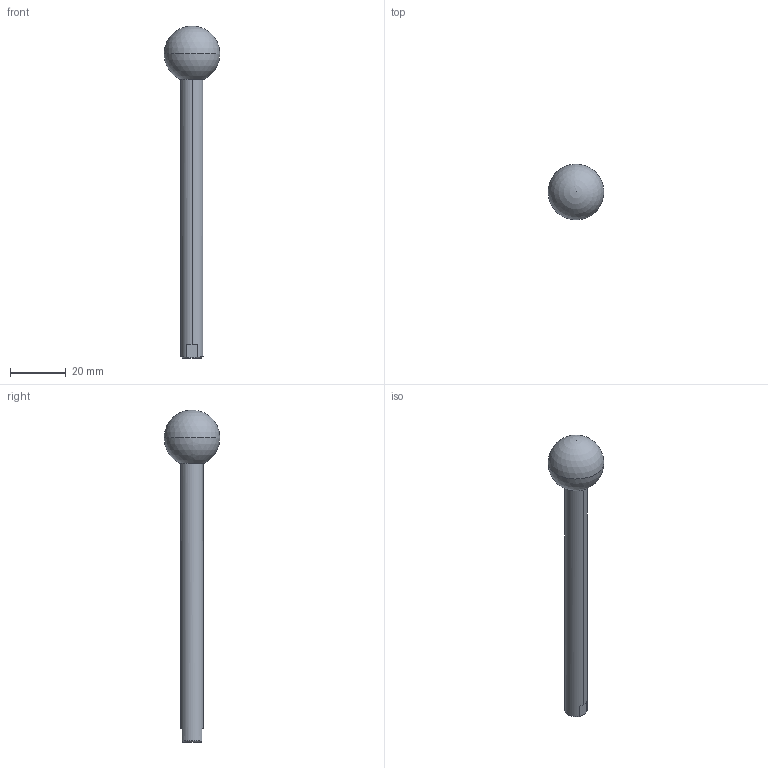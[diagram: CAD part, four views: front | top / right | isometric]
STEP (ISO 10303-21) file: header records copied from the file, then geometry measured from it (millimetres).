
FILE_DESCRIPTION (( 'STEP AP203' ), '1' );
FILE_NAME ('qlrcs-08100.STEP', '2021-10-21T08:20:22', ( '' ), ( '' ), 'SwSTEP 2.0', 'SolidWorks 2020', '' );
FILE_SCHEMA (( 'CONFIG_CONTROL_DESIGN' ));
Length unit declared in the file: millimetre
Products named in the file (1): qlrcs-08100
Bounding box: 19.97 x 19.97 x 119 mm (x, y, z)
Volume: 9068.3 mm3; surface area: 3857.1 mm2
Topology: 1 solids, 1 shells, 17 faces, 40 edges, 26 vertices
Faces by surface type: plane 7, cylinder 4, cone 4, sphere 2
Entity records: 563 total; most frequent: CARTESIAN_POINT 102, DIRECTION 88, ORIENTED_EDGE 72, AXIS2_PLACEMENT_3D 38, EDGE_CURVE 36, VERTEX_POINT 24, CIRCLE 20, EDGE_LOOP 20
